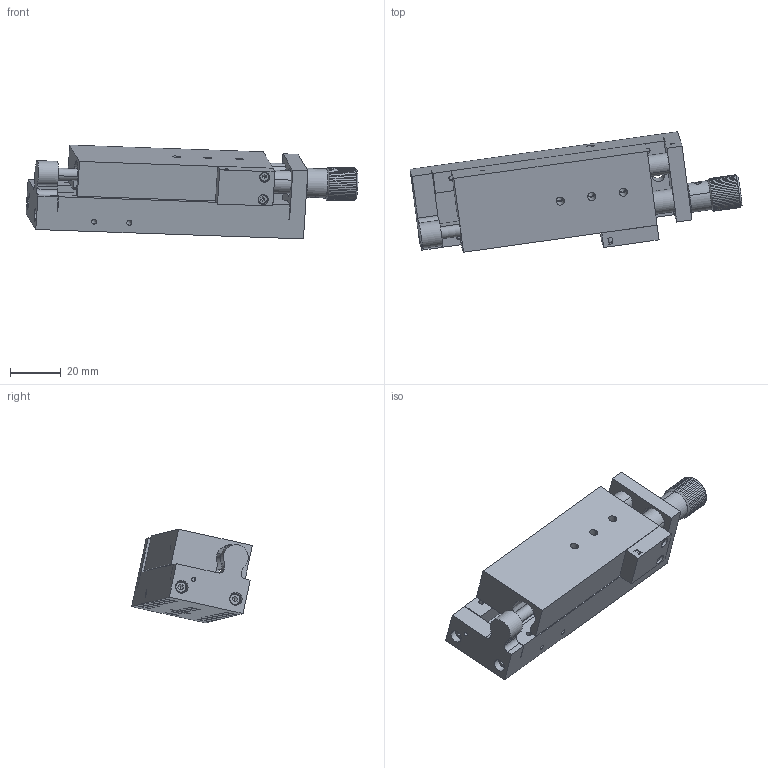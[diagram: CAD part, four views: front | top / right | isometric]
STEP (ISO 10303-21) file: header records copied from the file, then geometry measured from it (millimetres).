
FILE_DESCRIPTION((''),'2;1');
FILE_NAME('7T30-50 INT.stp','2013-07-03T08:32:21',(''),(''),'Mechanical Desktop 2011','Mechanical Desktop 2011',', , ');
FILE_SCHEMA(('CONFIG_CONTROL_DESIGN'));
Length unit declared in the file: millimetre
Products named in the file (1): Product
Bounding box: 130.74 x 47.51 x 36.93 mm (x, y, z)
Volume: 64127.9 mm3; surface area: 39384.9 mm2
Topology: 2 solids, 36 shells, 1092 faces, 2689 edges, 1710 vertices
Faces by surface type: plane 491, bspline 280, cylinder 145, cone 126, torus 50
Entity records: 35774 total; most frequent: CARTESIAN_POINT 11095, ORIENTED_EDGE 5238, DIRECTION 4994, EDGE_CURVE 2619, AXIS2_PLACEMENT_3D 1902, VERTEX_POINT 1710, EDGE_LOOP 1291, VECTOR 1190
